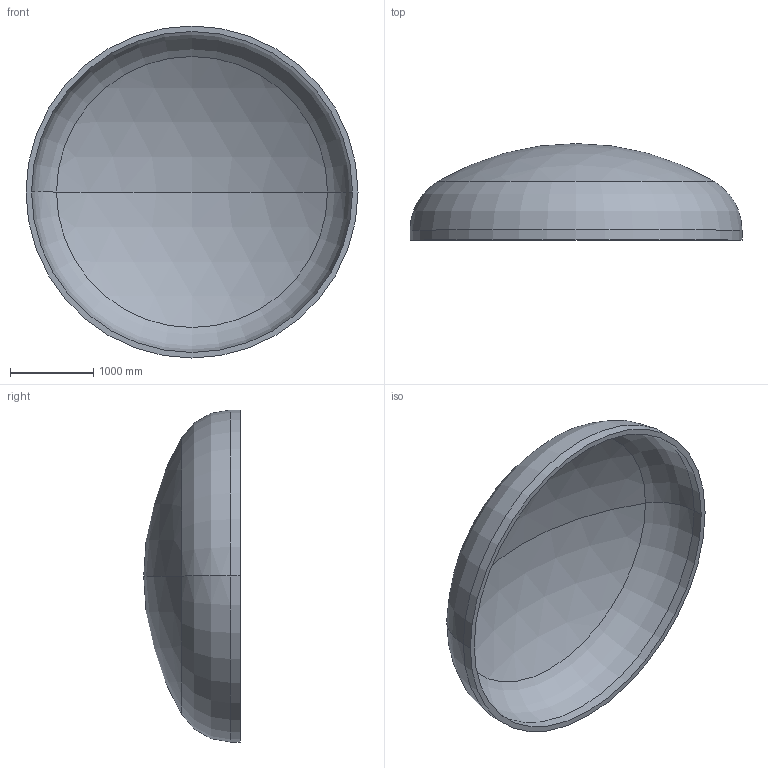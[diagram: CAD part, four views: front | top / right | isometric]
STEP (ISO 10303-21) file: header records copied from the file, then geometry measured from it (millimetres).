
FILE_DESCRIPTION (( 'STEP AP203' ), '1' );
FILE_NAME ('DIN 28013 Korbbogenform_-_Boden DIN 28013 - 4000 x 120 - I - s=66.step', '2016-07-01T22:35:51', ( '' ), ( '' ), 'SwSTEP 2.0', 'SolidWorks 2013', '' );
FILE_SCHEMA (( 'CONFIG_CONTROL_DESIGN' ));
Length unit declared in the file: millimetre
Products named in the file (1): DIN 28013 Korbbogenform_-_Boden DIN 28013 - 4000 x 120 - I - s=66
Bounding box: 4000 x 1162.83 x 4000 mm (x, y, z)
Volume: 1221464189.6 mm3; surface area: 37838872 mm2
Topology: 1 solids, 1 shells, 13 faces, 24 edges, 14 vertices
Faces by surface type: torus 4, cylinder 4, sphere 4, plane 1
Entity records: 407 total; most frequent: DIRECTION 72, CARTESIAN_POINT 52, ORIENTED_EDGE 48, AXIS2_PLACEMENT_3D 34, EDGE_CURVE 24, CIRCLE 20, VERTEX_POINT 14, EDGE_LOOP 14
